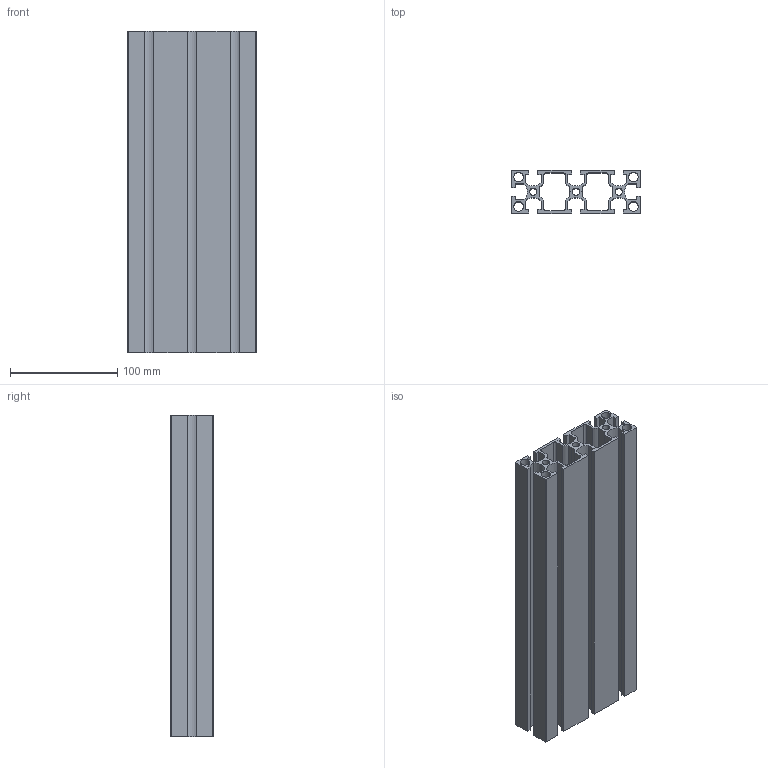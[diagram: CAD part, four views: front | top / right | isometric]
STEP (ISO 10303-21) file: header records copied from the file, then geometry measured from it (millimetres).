
FILE_DESCRIPTION (( 'STEP AP203' ), '1' );
FILE_NAME ('CG-40120-8.STEP', '2020-11-07T03:38:47', ( '微软用户' ), ( '微软中国' ), 'SwSTEP 2.0', 'SolidWorks 2017', '' );
FILE_SCHEMA (( 'CONFIG_CONTROL_DESIGN' ));
Length unit declared in the file: millimetre
Products named in the file (1): CG-40120-8
Bounding box: 120 x 40 x 300 mm (x, y, z)
Volume: 415813.6 mm3; surface area: 311730.6 mm2
Topology: 1 solids, 1 shells, 143 faces, 423 edges, 282 vertices
Faces by surface type: plane 84, cylinder 59
Entity records: 4908 total; most frequent: CARTESIAN_POINT 849, ORIENTED_EDGE 846, DIRECTION 829, EDGE_CURVE 423, VECTOR 305, LINE 305, VERTEX_POINT 282, AXIS2_PLACEMENT_3D 262
